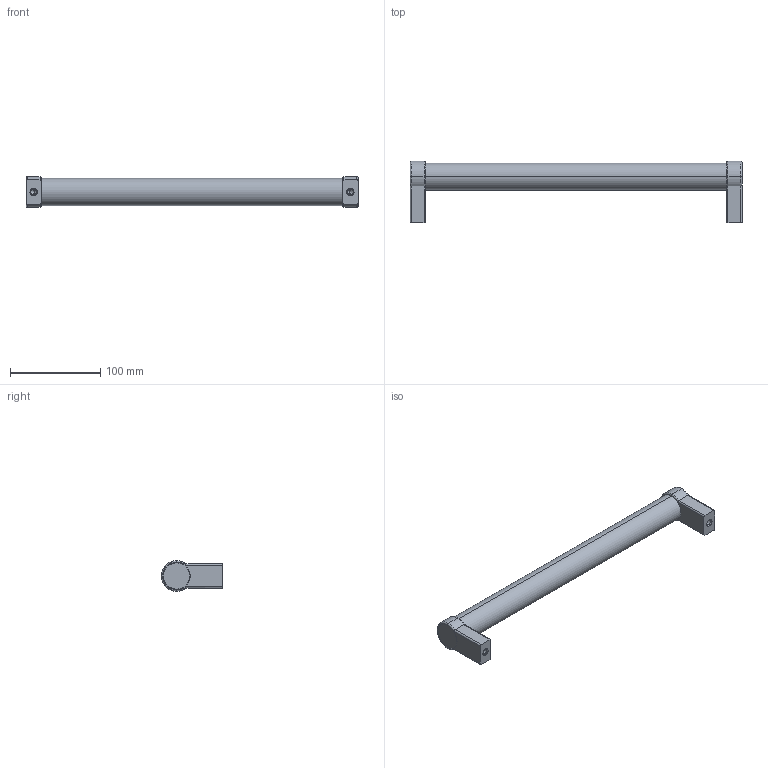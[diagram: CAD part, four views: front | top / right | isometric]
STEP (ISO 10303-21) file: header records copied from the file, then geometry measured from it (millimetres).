
FILE_DESCRIPTION (( 'STEP AP214' ), '1' );
FILE_NAME ('333.1-30-350-A-EL.step', '2020-11-02T10:08:55', ( '' ), ( '' ), 'SwSTEP 2.0', 'SolidWorks 2019', '' );
FILE_SCHEMA (( 'AUTOMOTIVE_DESIGN' ));
Length unit declared in the file: millimetre
Products named in the file (1): 333.1-30-350-A-EL
Bounding box: 367 x 68 x 34 mm (x, y, z)
Volume: 297499.3 mm3; surface area: 44344.4 mm2
Topology: 1 solids, 1 shells, 66 faces, 146 edges, 86 vertices
Faces by surface type: cylinder 28, torus 16, plane 14, cone 8
Entity records: 2036 total; most frequent: CARTESIAN_POINT 383, DIRECTION 348, ORIENTED_EDGE 284, AXIS2_PLACEMENT_3D 147, EDGE_CURVE 142, VERTEX_POINT 86, CIRCLE 80, EDGE_LOOP 74
